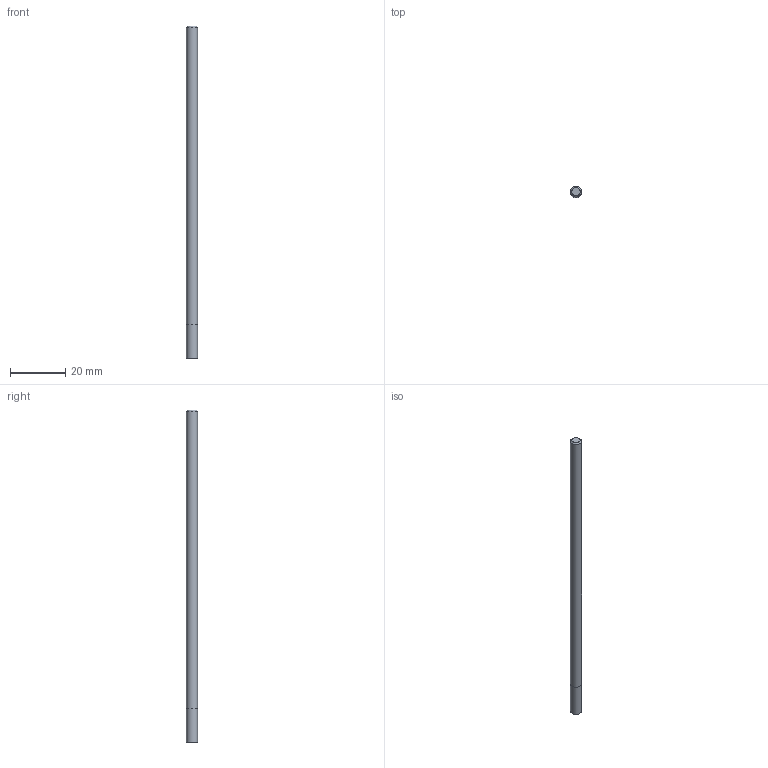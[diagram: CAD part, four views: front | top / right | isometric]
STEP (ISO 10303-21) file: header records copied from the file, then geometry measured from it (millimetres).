
FILE_DESCRIPTION((''),'2;1');
FILE_NAME('C:\Users\nsx150\Desktop\RSE230_20210427\01-00644-04000 RSE230 D4X12Xd4.step','2021-05-07T14:54:05',(''),(''),'STEP Write','Mastercam 2021 ... CNC Software, Inc.','');
FILE_SCHEMA(('AUTOMOTIVE_DESIGN'));
Length unit declared in the file: millimetre
Products named in the file (1): None
Bounding box: 4 x 4 x 120 mm (x, y, z)
Volume: 1506.5 mm3; surface area: 1554.2 mm2
Topology: 2 solids, 2 shells, 7 faces, 8 edges, 5 vertices
Faces by surface type: plane 4, cylinder 2, cone 1
Full cylindrical faces by diameter (mm): 4 x2
Entity records: 169 total; most frequent: DIRECTION 28, CARTESIAN_POINT 19, AXIS2_PLACEMENT_3D 14, ORIENTED_EDGE 10, EDGE_LOOP 10, STYLED_ITEM 10, ADVANCED_FACE 7, VERTEX_POINT 5
